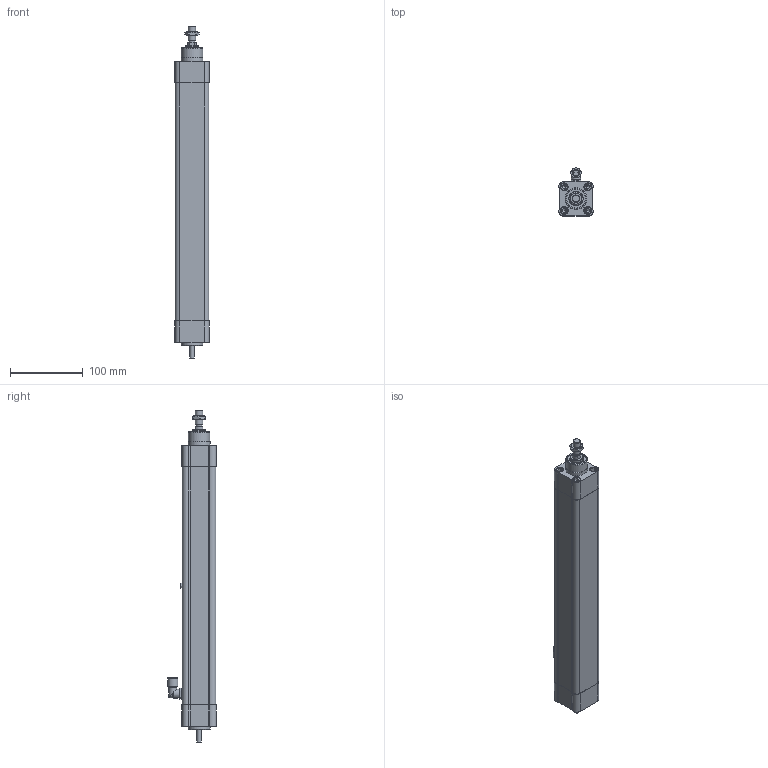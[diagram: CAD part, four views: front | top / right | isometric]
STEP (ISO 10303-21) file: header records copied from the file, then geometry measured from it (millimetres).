
FILE_DESCRIPTION(/* description */ ('STEP AP214'),/* implementation_level */ '2;1');
FILE_NAME(/* name */ 'PNCE 32 BS 1205 250 IP65CR(0)',/* time_stamp */ '2026-01-23T07:22:38+01:00',/* author */ ('License CC BY-ND 4.0'),/* organization */ ('CADENAS'),/* preprocessor_version */ 'ST-DEVELOPER v20',/* originating_system */ 'PARTsolutions',/* authorisation */ ' ');
FILE_SCHEMA (('AUTOMOTIVE_DESIGN {1 0 10303 214 3 1 1}'));
Length unit declared in the file: millimetre
Products named in the file (6): PNCE 32 BS 1205 250 IP65CR(0); PNCE 32_drive cap; PNCE 32 250 IP65CR(0)_cylinder profil; PNCE 32_front cap; PNCE 32 250 IP65CR 0_piston rod; PNCE 32_nut
Assembly tree (5 placements, depth 2):
  PNCE 32 BS 1205 250 IP65CR(0)
    PNCE 32_drive cap
    PNCE 32 250 IP65CR(0)_cylinder profil
    PNCE 32_front cap
    PNCE 32 250 IP65CR 0_piston rod
    PNCE 32_nut
Bounding box: 46.97 x 66.5 x 455 mm (x, y, z)
Volume: 651994.9 mm3; surface area: 170881.6 mm2
Topology: 5 solids, 5 shells, 312 faces, 684 edges, 443 vertices
Faces by surface type: plane 161, cylinder 100, cone 45, torus 5, sphere 1
Full cylindrical faces by diameter (mm): 4.917 x8, 5 x4, 6 x9, 6.7 x4, 8 x2, 8.376 x1, 8.4 x1, 10 x10, 11 x9, 12.5 x2, 14 x2, 17.8 x1, 18 x2, 19 x1, 20 x1, 22 x1, 26 x1, 29.5 x1, 30 x3, 31.5 x1, 32.5 x3
Entity records: 10091 total; most frequent: CARTESIAN_POINT 1527, DIRECTION 1386, ORIENTED_EDGE 1124, AXIS2_PLACEMENT_3D 564, EDGE_CURVE 562, FACE_BOUND 489, EDGE_LOOP 481, VERTEX_POINT 431
